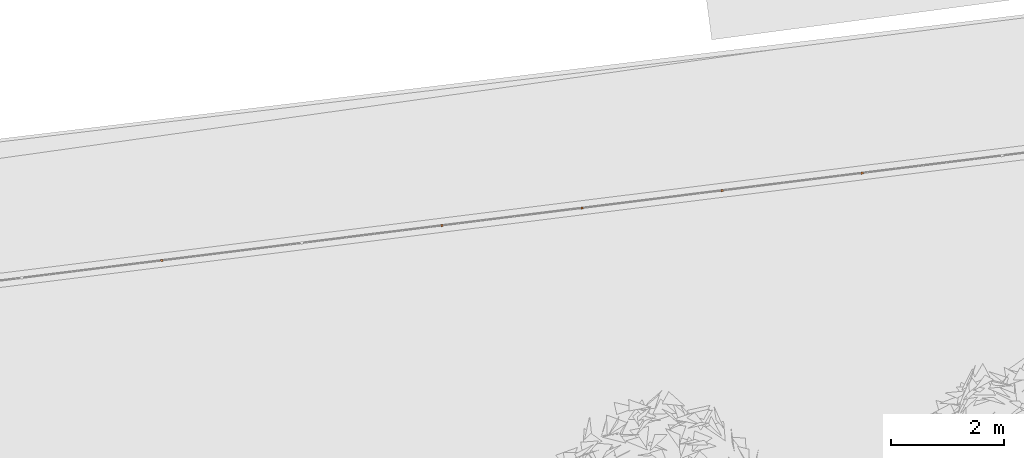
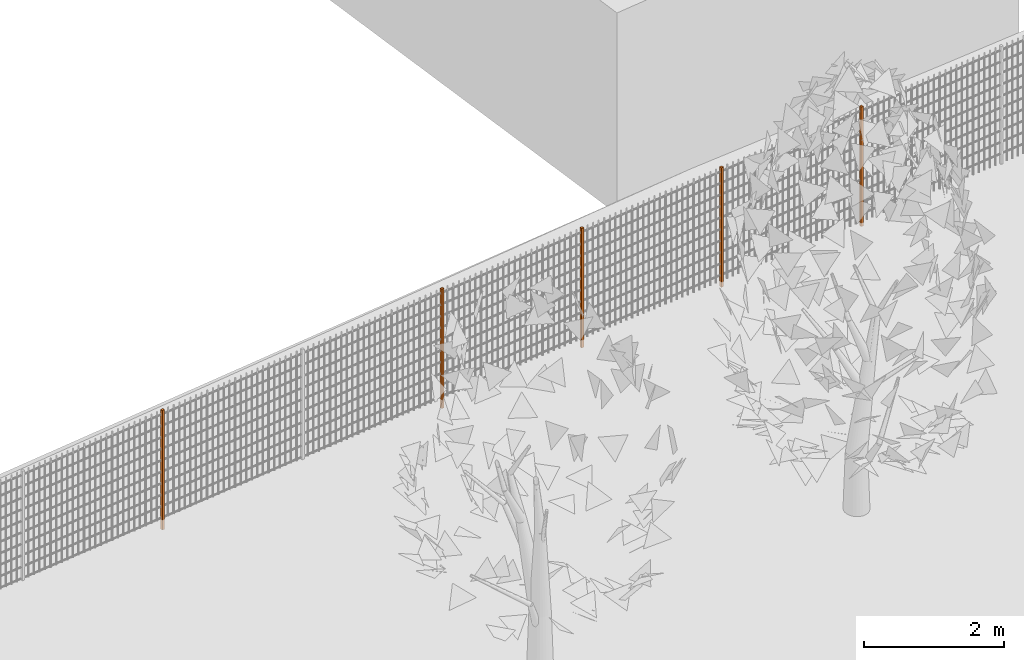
# One storey, part 24 of 1809: 5 proxies, 1 element without a shape of its own.
"""IFC2X3 building model written with IfcOpenShell, lengths in millimetres."""

from ifc_helpers import new_model, entity, si_unit, converted_unit, derived_unit, money_unit, direction, frame, origin_with_axes, place, context, subcontext, project, spatial, faceted_brep, source, transform, mapped, material, type_object, element, aggregate, save


model = new_model("IFC2X3")

# Units and contexts
model_context = context("Model", 3, precision=0.01, world=origin_with_axes(), true_north=direction((0.0, 1.0)))
body_context = subcontext(model_context, "Body", "Model", "MODEL_VIEW")
ifc_project = project(units=[si_unit("LENGTHUNIT", "METRE", prefix="MILLI"), si_unit("AREAUNIT", "SQUARE_METRE"), si_unit("VOLUMEUNIT", "CUBIC_METRE"), converted_unit("PLANEANGLEUNIT", "DEGREE", entity("IfcPlaneAngleMeasure", 0.0174532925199), si_unit("PLANEANGLEUNIT", "RADIAN"), dimensions=[0, 0, 0, 0, 0, 0, 0]), si_unit("SOLIDANGLEUNIT", "STERADIAN"), money_unit("EUR"), converted_unit("TIMEUNIT", "Year", entity("IfcTimeMeasure", 31556926.0), si_unit("TIMEUNIT", "SECOND"), dimensions=[0, 0, 1, 0, 0, 0, 0]), si_unit("MASSUNIT", "GRAM", prefix="KILO"), si_unit("THERMODYNAMICTEMPERATUREUNIT", "DEGREE_CELSIUS"), si_unit("LUMINOUSINTENSITYUNIT", "LUMEN"), si_unit("ENERGYUNIT", "JOULE", prefix="MEGA"), derived_unit("THERMALCONDUCTANCEUNIT", [(si_unit("POWERUNIT", "WATT"), 1), (si_unit("LENGTHUNIT", "METRE"), -1), (si_unit("THERMODYNAMICTEMPERATUREUNIT", "KELVIN"), -1)]), derived_unit("SPECIFICHEATCAPACITYUNIT", [(si_unit("ENERGYUNIT", "JOULE"), 1), (si_unit("MASSUNIT", "GRAM", prefix="KILO"), -1), (si_unit("THERMODYNAMICTEMPERATUREUNIT", "KELVIN"), -1)]), derived_unit("MASSDENSITYUNIT", [(si_unit("MASSUNIT", "GRAM", prefix="KILO"), 1), (si_unit("VOLUMEUNIT", "CUBIC_METRE"), -1)])], contexts=[model_context])

# Site, building, storey
site_placement = place(None, origin_with_axes())
site = spatial("IfcSite", under=ifc_project, at=site_placement, Name="Politse- ja Piirivalveameti ning Päästeameti ühishoone", CompositionType="ELEMENT")
building_placement = place(site_placement, origin_with_axes())
building = spatial("IfcBuilding", under=site, at=building_placement, Name="Politse- ja Piirivalveameti ning Päästeameti ühishoone", CompositionType="ELEMENT")
storey_placement = place(building_placement, origin_with_axes())
storey = spatial("IfcBuildingStorey", under=building, at=storey_placement, Name="Esimene korrus", CompositionType="ELEMENT", Elevation=0.0)

# Proxies
building_element_proxy_type_1 = type_object("IfcBuildingElementProxyType", Name="Railing Type", PredefinedType="NOTDEFINED")
proxy_1_placement = place(storey_placement, frame((44315.9245146, 76650.7857067, 296.762367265), z_axis=(0.0, 0.0, 1.0), x_axis=(0.122151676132, 0.992511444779, 0.0)))
proxy_1 = element("IfcBuildingElementProxy", 1, at=proxy_1_placement, inside=storey, type_object=building_element_proxy_type_1, Name="PIIRDEAED")
ifc_material = material(Name="ET-03_Raud")
building_element_proxy_type_2 = type_object("IfcBuildingElementProxyType", Name="IfcBuildingElementProxy", PredefinedType="NOTDEFINED")
shared_shape = source(origin_with_axes(), body_context, "Body", "Brep", [
    faceted_brep([(20.0, 20.0, 0.0), (-20.0, 20.0, 0.0), (-20.0, 20.0, 2080.0), (20.0, 20.0, 2080.0), (20.0, -20.0, 0.0), (-20.0, -20.0, 0.0), (-20.0, -20.0, 2080.0), (20.0, -20.0, 2080.0)], [[[0, 1, 2, 3]], [[0, 4, 5, 1]], [[1, 5, 6, 2]], [[3, 2, 6, 7]], [[4, 0, 3, 7]], [[5, 4, 7, 6]]]),
])
proxy_2_placement = place(proxy_1_placement, frame((-9628.85144594, 37458.6395406, 0.0), z_axis=(0.0, 0.0, 1.0), x_axis=(0.122151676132, -0.992511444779, 0.0)))
proxy_2 = element("IfcBuildingElementProxy", 2, at=proxy_2_placement, type_object=building_element_proxy_type_2, material=ifc_material, Name="SISEPOST - 001", context=body_context, shape_type="MappedRepresentation", body=[
    mapped(shared_shape, transform((0.0, 0.0, 0.0), x_axis=(-0.123895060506, 0.99229532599, 0.0), y_axis=(-0.99229532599, -0.123895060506, 0.0), z_axis=(0.0, 0.0, 1.0))),
])
proxy_3_placement = place(proxy_1_placement, frame((-10239.2959529, 39882.9657365, 0.0), z_axis=(0.0, 0.0, 1.0), x_axis=(0.122151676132, -0.992511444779, 0.0)))
proxy_3 = element("IfcBuildingElementProxy", 3, at=proxy_3_placement, type_object=building_element_proxy_type_2, material=ifc_material, Name="SISEPOST - 001", context=body_context, shape_type="MappedRepresentation", body=[
    mapped(shared_shape, transform((0.0, 0.0, 0.0), x_axis=(-0.123895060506, 0.99229532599, 0.0), y_axis=(-0.99229532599, -0.123895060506, 0.0), z_axis=(0.0, 0.0, 1.0))),
])
proxy_4_placement = place(proxy_1_placement, frame((-10849.7404599, 42307.2919323, 0.0), z_axis=(0.0, 0.0, 1.0), x_axis=(0.122151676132, -0.992511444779, 0.0)))
proxy_4 = element("IfcBuildingElementProxy", 4, at=proxy_4_placement, type_object=building_element_proxy_type_2, material=ifc_material, Name="SISEPOST - 001", context=body_context, shape_type="MappedRepresentation", body=[
    mapped(shared_shape, transform((0.0, 0.0, 0.0), x_axis=(-0.123895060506, 0.99229532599, 0.0), y_axis=(-0.99229532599, -0.123895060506, 0.0), z_axis=(0.0, 0.0, 1.0))),
])
proxy_5_placement = place(proxy_1_placement, frame((-11460.1849669, 44731.6181282, 0.0), z_axis=(0.0, 0.0, 1.0), x_axis=(0.122151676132, -0.992511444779, 0.0)))
proxy_5 = element("IfcBuildingElementProxy", 5, at=proxy_5_placement, type_object=building_element_proxy_type_2, material=ifc_material, Name="SISEPOST - 001", context=body_context, shape_type="MappedRepresentation", body=[
    mapped(shared_shape, transform((0.0, 0.0, 0.0), x_axis=(-0.123895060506, 0.99229532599, 0.0), y_axis=(-0.99229532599, -0.123895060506, 0.0), z_axis=(0.0, 0.0, 1.0))),
])
proxy_6_placement = place(proxy_1_placement, frame((-12681.0739808, 49580.2705199, 0.0), z_axis=(0.0, 0.0, 1.0), x_axis=(0.122151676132, -0.992511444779, 0.0)))
proxy_6 = element("IfcBuildingElementProxy", 6, at=proxy_6_placement, type_object=building_element_proxy_type_2, material=ifc_material, Name="SISEPOST - 001", context=body_context, shape_type="MappedRepresentation", body=[
    mapped(shared_shape, transform((0.0, 0.0, 0.0), x_axis=(-0.123895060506, 0.99229532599, 0.0), y_axis=(-0.99229532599, -0.123895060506, 0.0), z_axis=(0.0, 0.0, 1.0))),
])
aggregate(proxy_1, [proxy_2, proxy_3, proxy_4, proxy_5, proxy_6])

save(model, "model.ifc")
